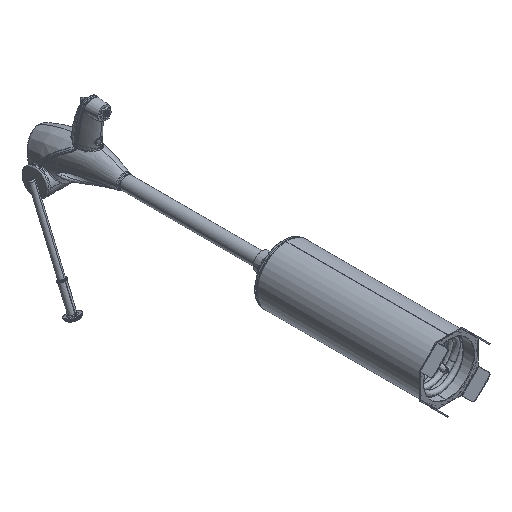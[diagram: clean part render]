
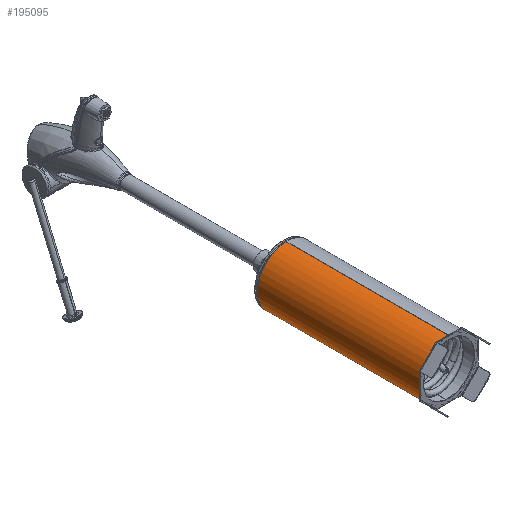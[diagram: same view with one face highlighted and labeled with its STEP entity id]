
A CAD part, isometric view. The second image highlights one B-rep face of the part: STEP entity #195095.
In plain terms, the highlighted cylindrical face has radius 109.5 mm (diameter 219 mm), a partial arc.
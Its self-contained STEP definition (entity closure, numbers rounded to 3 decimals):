
#1727 = CARTESIAN_POINT ( 'NONE',  ( 0., 193.15, 0. ) ) ;
#4316 = CARTESIAN_POINT ( 'NONE',  ( 0., -420.85, -109.5 ) ) ;
#6678 = ORIENTED_EDGE ( 'NONE', *, *, #96206, .T. ) ;
#15848 = DIRECTION ( 'NONE',  ( 0., 1., 0. ) ) ;
#19696 = DIRECTION ( 'NONE',  ( 0., 0., -1. ) ) ;
#24873 = CARTESIAN_POINT ( 'NONE',  ( 0., 193.15, 109.5 ) ) ;
#26533 = CYLINDRICAL_SURFACE ( 'NONE', #196848, 109.5 ) ;
#29707 = VECTOR ( 'NONE', #190918, 1000. ) ;
#32492 = LINE ( 'NONE', #24873, #29707 ) ;
#38631 = ORIENTED_EDGE ( 'NONE', *, *, #41804, .T. ) ;
#41804 = EDGE_CURVE ( 'NONE', #48287, #162401, #98526, .T. ) ;
#44704 = EDGE_CURVE ( 'NONE', #171825, #58679, #32492, .T. ) ;
#48287 = VERTEX_POINT ( 'NONE', #122440 ) ;
#52452 = CARTESIAN_POINT ( 'NONE',  ( 0., 193.15, 0. ) ) ;
#53924 = AXIS2_PLACEMENT_3D ( 'NONE', #52452, #15848, #183498 ) ;
#53929 = CARTESIAN_POINT ( 'NONE',  ( 0., -420.85, 0. ) ) ;
#56205 = CARTESIAN_POINT ( 'NONE',  ( 0., 193.15, 109.5 ) ) ;
#57800 = DIRECTION ( 'NONE',  ( 0., 0., 1. ) ) ;
#58679 = VERTEX_POINT ( 'NONE', #138003 ) ;
#76622 = EDGE_LOOP ( 'NONE', ( #127509, #38631, #6678, #129427 ) ) ;
#80236 = DIRECTION ( 'NONE',  ( 0., -1., 0. ) ) ;
#87222 = AXIS2_PLACEMENT_3D ( 'NONE', #53929, #166261, #19696 ) ;
#89999 = VECTOR ( 'NONE', #80236, 1000. ) ;
#96206 = EDGE_CURVE ( 'NONE', #162401, #58679, #130477, .T. ) ;
#98526 = LINE ( 'NONE', #137019, #89999 ) ;
#102274 = CIRCLE ( 'NONE', #53924, 109.5 ) ;
#122440 = CARTESIAN_POINT ( 'NONE',  ( 0., 193.15, -109.5 ) ) ;
#125561 = FACE_OUTER_BOUND ( 'NONE', #76622, .T. ) ;
#127509 = ORIENTED_EDGE ( 'NONE', *, *, #190884, .F. ) ;
#129427 = ORIENTED_EDGE ( 'NONE', *, *, #44704, .F. ) ;
#130477 = CIRCLE ( 'NONE', #87222, 109.5 ) ;
#137019 = CARTESIAN_POINT ( 'NONE',  ( 0., 193.15, -109.5 ) ) ;
#138003 = CARTESIAN_POINT ( 'NONE',  ( 0., -420.85, 109.5 ) ) ;
#152010 = DIRECTION ( 'NONE',  ( 0., -1., 0. ) ) ;
#162401 = VERTEX_POINT ( 'NONE', #4316 ) ;
#166261 = DIRECTION ( 'NONE',  ( 0., 1., 0. ) ) ;
#171825 = VERTEX_POINT ( 'NONE', #56205 ) ;
#183498 = DIRECTION ( 'NONE',  ( 0., 0., -1. ) ) ;
#190884 = EDGE_CURVE ( 'NONE', #48287, #171825, #102274, .T. ) ;
#190918 = DIRECTION ( 'NONE',  ( 0., -1., 0. ) ) ;
#195095 = ADVANCED_FACE ( 'NONE', ( #125561 ), #26533, .T. ) ;
#196848 = AXIS2_PLACEMENT_3D ( 'NONE', #1727, #152010, #57800 ) ;
